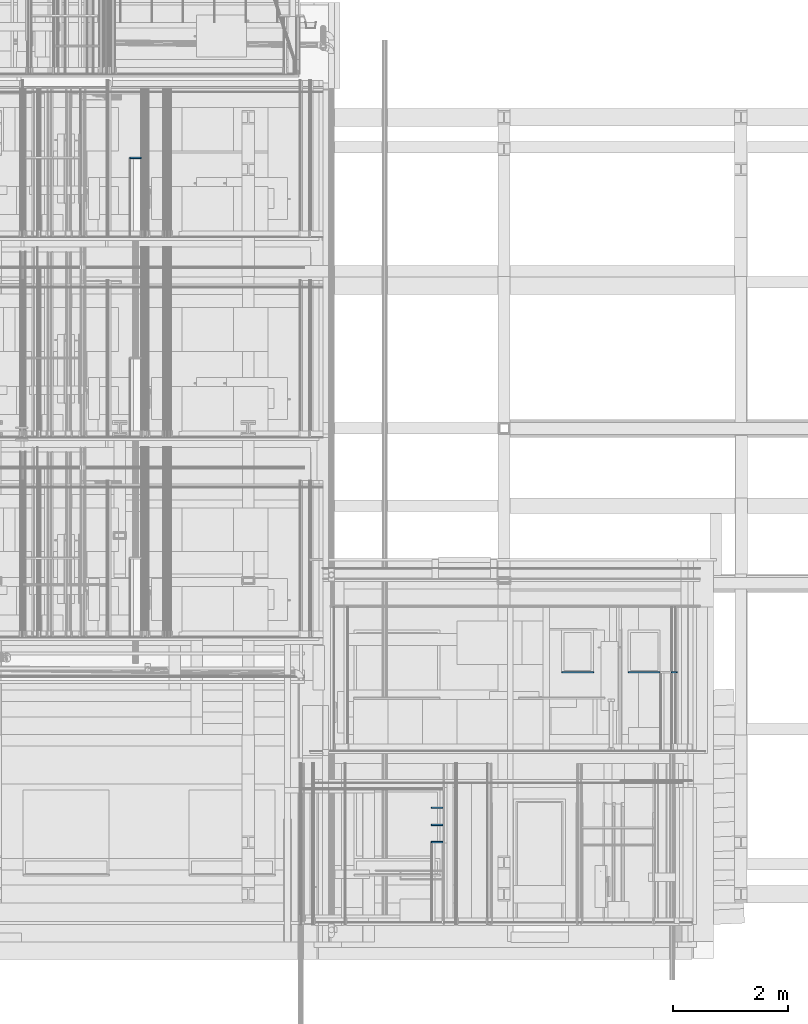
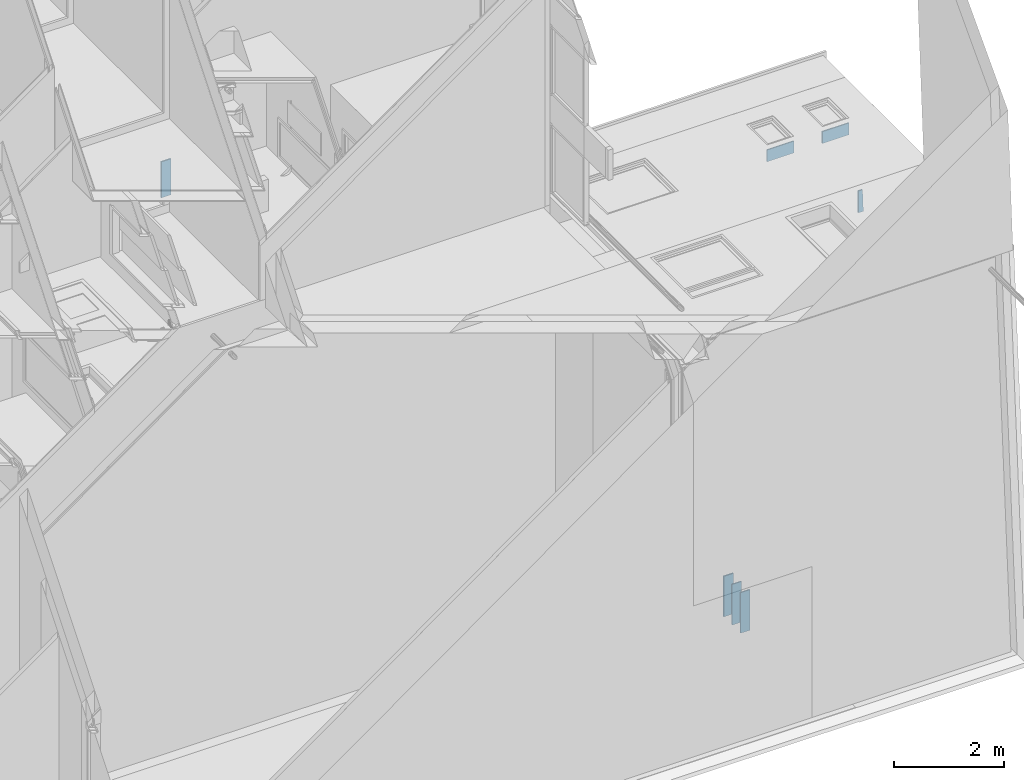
# One storey, part 301 of 583: 7 slabs.
"""IFC2X3 building model written with IfcOpenShell, lengths in metres."""

from ifc_helpers import new_model, entity, si_unit, converted_unit, derived_unit, money_unit, direction, frame, origin_with_axes, place, context, subcontext, project, spatial, faceted_brep, material, type_object, element, save


model = new_model("IFC2X3")

# Units and contexts
model_context = context("Model", 3, precision=1e-05, world=origin_with_axes(), true_north=direction((0.0, 1.0)))
body_context = subcontext(model_context, "Body", "Model", "MODEL_VIEW", scale=1.0)
ifc_project = project(units=[si_unit("LENGTHUNIT", "METRE"), si_unit("AREAUNIT", "SQUARE_METRE"), si_unit("VOLUMEUNIT", "CUBIC_METRE"), si_unit("ABSORBEDDOSEUNIT", "GRAY"), si_unit("AMOUNTOFSUBSTANCEUNIT", "MOLE"), si_unit("DOSEEQUIVALENTUNIT", "SIEVERT"), si_unit("ELECTRICCAPACITANCEUNIT", "FARAD"), si_unit("ELECTRICCHARGEUNIT", "COULOMB"), si_unit("ELECTRICCONDUCTANCEUNIT", "SIEMENS"), si_unit("ELECTRICCURRENTUNIT", "AMPERE"), si_unit("ELECTRICRESISTANCEUNIT", "OHM"), si_unit("ELECTRICVOLTAGEUNIT", "VOLT"), si_unit("ENERGYUNIT", "JOULE"), si_unit("FORCEUNIT", "NEWTON"), si_unit("FREQUENCYUNIT", "HERTZ"), si_unit("ILLUMINANCEUNIT", "LUX"), si_unit("INDUCTANCEUNIT", "HENRY"), si_unit("LUMINOUSFLUXUNIT", "LUMEN"), si_unit("LUMINOUSINTENSITYUNIT", "CANDELA"), si_unit("MAGNETICFLUXDENSITYUNIT", "TESLA"), si_unit("MAGNETICFLUXUNIT", "WEBER"), si_unit("MASSUNIT", "GRAM"), converted_unit("PLANEANGLEUNIT", "degree", entity("IfcReal", 0.0174532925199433), si_unit("PLANEANGLEUNIT", "RADIAN"), dimensions=[0, 0, 0, 0, 0, 0, 0]), si_unit("POWERUNIT", "WATT"), si_unit("PRESSUREUNIT", "PASCAL"), si_unit("RADIOACTIVITYUNIT", "BECQUEREL"), si_unit("SOLIDANGLEUNIT", "STERADIAN"), si_unit("THERMODYNAMICTEMPERATUREUNIT", "KELVIN"), si_unit("TIMEUNIT", "SECOND"), derived_unit("ACCELERATIONUNIT", [(si_unit("LENGTHUNIT", "METRE"), 1), (si_unit("TIMEUNIT", "SECOND"), -2)]), derived_unit("ANGULARVELOCITYUNIT", [(converted_unit("PLANEANGLEUNIT", "degree", entity("IfcReal", 0.0174532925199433), si_unit("PLANEANGLEUNIT", "RADIAN"), dimensions=[0, 0, 0, 0, 0, 0, 0]), 1), (si_unit("TIMEUNIT", "SECOND"), -1)]), derived_unit("CURVATUREUNIT", [(converted_unit("PLANEANGLEUNIT", "degree", entity("IfcReal", 0.0174532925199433), si_unit("PLANEANGLEUNIT", "RADIAN"), dimensions=[0, 0, 0, 0, 0, 0, 0]), 1), (si_unit("LENGTHUNIT", "METRE"), -1)]), derived_unit("DYNAMICVISCOSITYUNIT", [(si_unit("PRESSUREUNIT", "PASCAL"), 1), (si_unit("TIMEUNIT", "SECOND"), 1)]), derived_unit("HEATFLUXDENSITYUNIT", [(si_unit("POWERUNIT", "WATT"), 1), (si_unit("LENGTHUNIT", "METRE"), -2)]), derived_unit("HEATINGVALUEUNIT", [(si_unit("ENERGYUNIT", "JOULE"), 1), (si_unit("MASSUNIT", "GRAM"), -1)]), derived_unit("INTEGERCOUNTRATEUNIT", [(si_unit("TIMEUNIT", "SECOND"), -1)]), derived_unit("IONCONCENTRATIONUNIT", [(si_unit("MASSUNIT", "GRAM"), 1), (si_unit("VOLUMEUNIT", "CUBIC_METRE"), -1)]), derived_unit("ISOTHERMALMOISTURECAPACITYUNIT", [(si_unit("VOLUMEUNIT", "CUBIC_METRE"), 1), (si_unit("MASSUNIT", "GRAM"), -1)]), derived_unit("KINEMATICVISCOSITYUNIT", [(si_unit("AREAUNIT", "SQUARE_METRE"), 1), (si_unit("TIMEUNIT", "SECOND"), -1)]), derived_unit("LINEARFORCEUNIT", [(si_unit("FORCEUNIT", "NEWTON"), 1), (si_unit("LENGTHUNIT", "METRE"), -1)]), derived_unit("LINEARMOMENTUNIT", [(si_unit("FORCEUNIT", "NEWTON"), 1), (si_unit("LENGTHUNIT", "METRE"), -1)]), derived_unit("LINEARSTIFFNESSUNIT", [(si_unit("FORCEUNIT", "NEWTON"), 1), (si_unit("LENGTHUNIT", "METRE"), -1)]), derived_unit("LINEARVELOCITYUNIT", [(si_unit("LENGTHUNIT", "METRE"), 1), (si_unit("TIMEUNIT", "SECOND"), -1)]), derived_unit("LUMINOUSINTENSITYDISTRIBUTIONUNIT", [(si_unit("LUMINOUSINTENSITYUNIT", "CANDELA"), 1), (si_unit("LUMINOUSFLUXUNIT", "LUMEN"), -1)]), derived_unit("MASSDENSITYUNIT", [(si_unit("MASSUNIT", "GRAM"), 1), (si_unit("VOLUMEUNIT", "CUBIC_METRE"), -1)]), derived_unit("MASSFLOWRATEUNIT", [(si_unit("MASSUNIT", "GRAM"), 1), (si_unit("TIMEUNIT", "SECOND"), -1)]), derived_unit("MASSPERLENGTHUNIT", [(si_unit("MASSUNIT", "GRAM"), 1), (si_unit("LENGTHUNIT", "METRE"), -1)]), derived_unit("MODULUSOFELASTICITYUNIT", [(si_unit("FORCEUNIT", "NEWTON"), 1), (si_unit("AREAUNIT", "SQUARE_METRE"), -1)]), derived_unit("MODULUSOFLINEARSUBGRADEREACTIONUNIT", [(si_unit("FORCEUNIT", "NEWTON"), 1), (si_unit("LENGTHUNIT", "METRE"), -2)]), derived_unit("MODULUSOFROTATIONALSUBGRADEREACTIONUNIT", [(si_unit("FORCEUNIT", "NEWTON"), 1), (si_unit("LENGTHUNIT", "METRE"), 1)]), derived_unit("MODULUSOFSUBGRADEREACTIONUNIT", [(si_unit("FORCEUNIT", "NEWTON"), 1), (si_unit("VOLUMEUNIT", "CUBIC_METRE"), -1)]), derived_unit("MOISTUREDIFFUSIVITYUNIT", [(si_unit("VOLUMEUNIT", "CUBIC_METRE"), 1), (si_unit("TIMEUNIT", "SECOND"), -1)]), derived_unit("MOLECULARWEIGHTUNIT", [(si_unit("MASSUNIT", "GRAM"), 1), (si_unit("AMOUNTOFSUBSTANCEUNIT", "MOLE"), -1)]), derived_unit("PLANARFORCEUNIT", [(si_unit("FORCEUNIT", "NEWTON"), 1), (si_unit("LENGTHUNIT", "METRE"), -2)]), derived_unit("ROTATIONALFREQUENCYUNIT", [(si_unit("TIMEUNIT", "SECOND"), -1)]), derived_unit("ROTATIONALMASSUNIT", [(si_unit("MASSUNIT", "GRAM"), 1), (si_unit("LENGTHUNIT", "METRE"), 2)]), derived_unit("ROTATIONALSTIFFNESSUNIT", [(si_unit("FORCEUNIT", "NEWTON"), 1), (si_unit("LENGTHUNIT", "METRE"), 1), (converted_unit("PLANEANGLEUNIT", "degree", entity("IfcReal", 0.0174532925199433), si_unit("PLANEANGLEUNIT", "RADIAN"), dimensions=[0, 0, 0, 0, 0, 0, 0]), -1)]), derived_unit("SECTIONAREAINTEGRALUNIT", [(si_unit("LENGTHUNIT", "METRE"), 5)]), derived_unit("SECTIONMODULUSUNIT", [(si_unit("LENGTHUNIT", "METRE"), 3)]), derived_unit("SHEARMODULUSUNIT", [(si_unit("FORCEUNIT", "NEWTON"), 1), (si_unit("AREAUNIT", "SQUARE_METRE"), -1)]), derived_unit("SOUNDPOWERUNIT", [(si_unit("ENERGYUNIT", "JOULE"), 1), (si_unit("TIMEUNIT", "SECOND"), -1)]), derived_unit("SPECIFICHEATCAPACITYUNIT", [(si_unit("FORCEUNIT", "NEWTON"), 1), (si_unit("MASSUNIT", "GRAM"), -1), (si_unit("THERMODYNAMICTEMPERATUREUNIT", "KELVIN"), -1)]), derived_unit("TEMPERATUREGRADIENTUNIT", [(si_unit("THERMODYNAMICTEMPERATUREUNIT", "KELVIN"), 1), (si_unit("LENGTHUNIT", "METRE"), -1)]), derived_unit("THERMALADMITTANCEUNIT", [(si_unit("POWERUNIT", "WATT"), 1), (si_unit("AREAUNIT", "SQUARE_METRE"), -1), (si_unit("THERMODYNAMICTEMPERATUREUNIT", "KELVIN"), -1)]), derived_unit("THERMALCONDUCTANCEUNIT", [(si_unit("POWERUNIT", "WATT"), 1), (si_unit("LENGTHUNIT", "METRE"), -1), (si_unit("THERMODYNAMICTEMPERATUREUNIT", "KELVIN"), -1)]), derived_unit("THERMALEXPANSIONCOEFFICIENTUNIT", [(si_unit("THERMODYNAMICTEMPERATUREUNIT", "KELVIN"), -1)]), derived_unit("THERMALRESISTANCEUNIT", [(si_unit("AREAUNIT", "SQUARE_METRE"), 1), (si_unit("POWERUNIT", "WATT"), -1)]), derived_unit("THERMALTRANSMITTANCEUNIT", [(si_unit("POWERUNIT", "WATT"), 1), (si_unit("AREAUNIT", "SQUARE_METRE"), -1), (si_unit("THERMODYNAMICTEMPERATUREUNIT", "KELVIN"), -1)]), derived_unit("TORQUEUNIT", [(si_unit("FORCEUNIT", "NEWTON"), 1), (si_unit("LENGTHUNIT", "METRE"), 1)]), derived_unit("VAPORPERMEABILITYUNIT", [(si_unit("MASSUNIT", "GRAM"), 1), (si_unit("TIMEUNIT", "SECOND"), -1)]), derived_unit("VOLUMETRICFLOWRATEUNIT", [(si_unit("VOLUMEUNIT", "CUBIC_METRE"), 1), (si_unit("TIMEUNIT", "SECOND"), -1)]), derived_unit("WARPINGCONSTANTUNIT", [(si_unit("LENGTHUNIT", "METRE"), 6)]), derived_unit("WARPINGMOMENTUNIT", [(si_unit("FORCEUNIT", "NEWTON"), 1), (si_unit("LENGTHUNIT", "METRE"), 2)]), money_unit("GBP")], contexts=[model_context])

# Site, building, storey
site_placement = place(None, origin_with_axes())
site = spatial("IfcSite", under=ifc_project, at=site_placement, Name="Site", CompositionType="ELEMENT")
building_placement = place(site_placement, origin_with_axes())
building = spatial("IfcBuilding", under=site, at=building_placement, Name="Building01", CompositionType="ELEMENT")
storey_placement = place(building_placement, frame((0.0, 0.0, 20.78), z_axis=(0.0, 0.0, 1.0), x_axis=(1.0, 0.0, 0.0)))
storey = spatial("IfcBuildingStorey", under=building, at=storey_placement, Name="RL", CompositionType="ELEMENT", Elevation=20.78)

# Slabs
ifc_material_1 = material(Name="A_BSUK_Ceramic_WallTiles")
slab_type_1 = type_object("IfcSlabType", Name="A-FloorsSlabs A_BSUK_Slabs", PredefinedType="FLOOR")
placement = place(storey_placement, frame((0.0, 0.0, -20.78), z_axis=(0.0, 0.0, 1.0), x_axis=(1.0, 0.0, 0.0)))
element("IfcSlab", 1, at=placement, inside=storey, type_object=slab_type_1, material=ifc_material_1, Name="A-FloorsSlabs A_BSUK_Slabs", ObjectType="CompoundSlabLeaf", context=body_context, shape_type="Brep", body=[
    faceted_brep([(16.693646, 1.873, 1.200525), (16.693646, 1.898, 1.200525), (16.893647, 1.898, 1.200525), (16.893647, 1.873, 1.200525), (16.693649, 1.873, 2.100525), (16.693649, 1.898, 2.100525), (16.893646, 1.873, 2.100525), (16.893646, 1.898, 2.100525)], [[[0, 1, 2, 3]], [[4, 5, 1, 0]], [[6, 7, 5, 4]], [[3, 2, 7, 6]], [[1, 5, 7, 2]], [[3, 6, 4, 0]]]),
])
element("IfcSlab", 2, at=placement, inside=storey, type_object=slab_type_1, material=ifc_material_1, Name="A-FloorsSlabs A_BSUK_Slabs", ObjectType="CompoundSlabLeaf", context=body_context, shape_type="Brep", body=[
    faceted_brep([(16.693646, 2.173, 1.200525), (16.693646, 2.198, 1.200525), (16.893647, 2.198, 1.200525), (16.893647, 2.173, 1.200525), (16.693649, 2.173, 2.100525), (16.693649, 2.198, 2.100525), (16.893646, 2.173, 2.100525), (16.893646, 2.198, 2.100525)], [[[0, 1, 2, 3]], [[4, 5, 1, 0]], [[6, 7, 5, 4]], [[3, 2, 7, 6]], [[1, 5, 7, 2]], [[3, 6, 4, 0]]]),
])
element("IfcSlab", 3, at=placement, inside=storey, type_object=slab_type_1, material=ifc_material_1, Name="A-FloorsSlabs A_BSUK_Slabs", ObjectType="CompoundSlabLeaf", context=body_context, shape_type="Brep", body=[
    faceted_brep([(20.87911, 4.535, 7.264605), (20.87911, 4.56, 7.264605), (20.984048, 4.56, 7.263451), (20.984048, 4.535, 7.263451), (20.87911, 4.535, 7.748799), (20.87911, 4.56, 7.748799), (20.966043, 4.535, 7.748799), (20.966043, 4.56, 7.748799)], [[[0, 1, 2, 3]], [[4, 5, 1, 0]], [[6, 7, 5, 4]], [[3, 2, 7, 6]], [[1, 5, 7, 2]], [[3, 6, 4, 0]]]),
])
ifc_material_2 = material(Name="A_BSUK_Timber_Miscellaneous")
element("IfcSlab", 4, at=placement, inside=storey, type_object=slab_type_1, material=ifc_material_2, Name="A-FloorsSlabs A_BSUK_Slabs", ObjectType="CompoundSlabLeaf", context=body_context, shape_type="Brep", body=[
    faceted_brep([(20.683903, 4.535, 9.067259), (20.683903, 4.56, 9.067259), (20.683903, 4.56, 9.329665), (20.683903, 4.535, 9.329665), (20.123903, 4.535, 9.067259), (20.123903, 4.56, 9.067259), (20.123903, 4.535, 9.329665), (20.123903, 4.56, 9.329665)], [[[0, 1, 2, 3]], [[4, 5, 1, 0]], [[6, 7, 5, 4]], [[3, 2, 7, 6]], [[1, 5, 7, 2]], [[3, 6, 4, 0]]]),
])
element("IfcSlab", 5, at=placement, inside=storey, type_object=slab_type_1, material=ifc_material_2, Name="A-FloorsSlabs A_BSUK_Slabs", ObjectType="CompoundSlabLeaf", context=body_context, shape_type="Brep", body=[
    faceted_brep([(19.522294, 4.535, 9.067259), (19.522294, 4.56, 9.067259), (19.522294, 4.56, 9.329665), (19.522294, 4.535, 9.329665), (18.962294, 4.535, 9.067259), (18.962294, 4.56, 9.067259), (18.962294, 4.535, 9.329665), (18.962294, 4.56, 9.329665)], [[[0, 1, 2, 3]], [[4, 5, 1, 0]], [[6, 7, 5, 4]], [[3, 2, 7, 6]], [[1, 5, 7, 2]], [[3, 6, 4, 0]]]),
])
element("IfcSlab", 6, at=placement, inside=storey, type_object=slab_type_1, material=ifc_material_1, Name="A-FloorsSlabs A_BSUK_Slabs", ObjectType="CompoundSlabLeaf", context=body_context, shape_type="Brep", body=[
    faceted_brep([(11.43067, 13.505, 5.464669), (11.43067, 13.53, 5.464669), (11.63067, 13.53, 5.464669), (11.63067, 13.505, 5.464669), (11.430672, 13.505, 6.264669), (11.430672, 13.53, 6.264669), (11.63067, 13.505, 6.264669), (11.63067, 13.53, 6.264669)], [[[0, 1, 2, 3]], [[4, 5, 1, 0]], [[6, 7, 5, 4]], [[3, 2, 7, 6]], [[1, 5, 7, 2]], [[3, 6, 4, 0]]]),
])
ifc_material_3 = material(Name="A_BSUK_Ceramic_FloorTiles")
slab_type_2 = type_object("IfcSlabType", Name="A-Finishes A_BSUK_Ceramic_FloorTiles", PredefinedType="FLOOR")
element("IfcSlab", 7, at=placement, inside=storey, type_object=slab_type_2, material=ifc_material_3, Name="A-Finishes A_BSUK_Ceramic_FloorTiles", ObjectType="CompoundSlabLeaf", context=body_context, shape_type="Brep", body=[
    faceted_brep([(16.693646, 1.573, 1.200525), (16.693646, 1.598, 1.200525), (16.893647, 1.598, 1.200525), (16.893647, 1.573, 1.200525), (16.693649, 1.573, 2.100525), (16.693649, 1.598, 2.100525), (16.893646, 1.573, 2.100525), (16.893646, 1.598, 2.100525)], [[[0, 1, 2, 3]], [[4, 5, 1, 0]], [[6, 7, 5, 4]], [[3, 2, 7, 6]], [[1, 5, 7, 2]], [[3, 6, 4, 0]]]),
])

save(model, "model.ifc")
